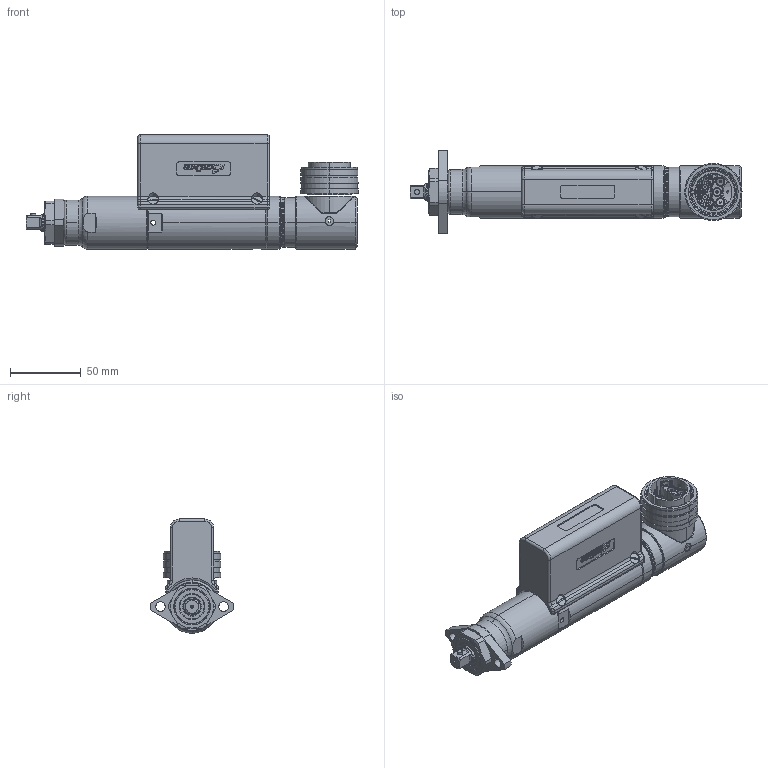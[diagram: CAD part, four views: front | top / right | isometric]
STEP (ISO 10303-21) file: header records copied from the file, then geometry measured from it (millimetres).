
FILE_DESCRIPTION (( 'STEP AP203' ), '1' );
FILE_NAME ('AEF4X12003BB & AEF4X12006BB.STEP', '2012-06-22T15:20:49', ( 'AIMCO' ), ( '' ), 'SwSTEP 2.0', 'SolidWorks 2012', '' );
FILE_SCHEMA (( 'CONFIG_CONTROL_DESIGN' ));
Length unit declared in the file: inch
Products named in the file (1): AEF4X12003BB & AEF4X12006BB
Bounding box: 234.15 x 58.71 x 80.57 mm (x, y, z)
Surface area: 60310 mm2 (no closed solid volume)
Topology: 0 solids, 79 shells, 912 faces, 3774 edges, 2919 vertices
Faces by surface type: plane 536, cylinder 193, torus 87, cone 85, bspline 7, sphere 4
Entity records: 41021 total; most frequent: CARTESIAN_POINT 10926, DIRECTION 6061, ORIENTED_EDGE 5262, EDGE_CURVE 3766, VERTEX_POINT 2915, LINE 2809, VECTOR 2809, AXIS2_PLACEMENT_3D 1626
